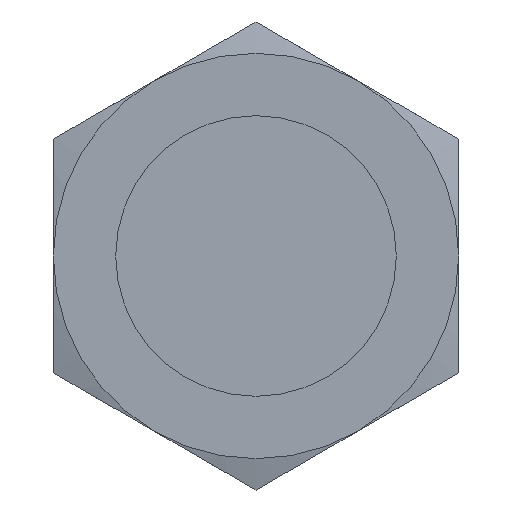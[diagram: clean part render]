
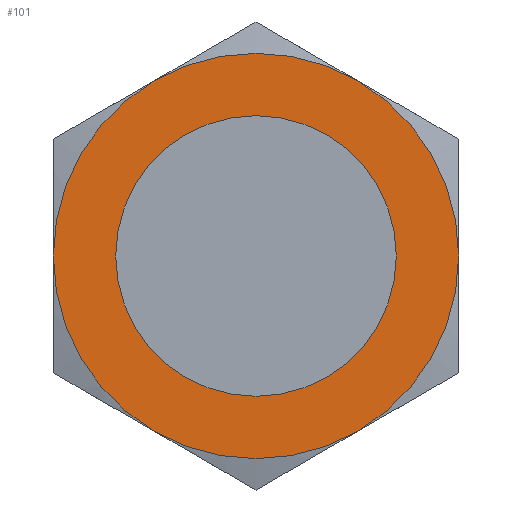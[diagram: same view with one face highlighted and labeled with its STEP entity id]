
A CAD part, front view. The second image highlights one B-rep face of the part: STEP entity #101.
In plain terms, the highlighted planar face has unit normal (0, -1, 0).
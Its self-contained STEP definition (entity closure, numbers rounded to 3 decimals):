
#101 = ADVANCED_FACE( '', ( #165, #166 ), #167, .T. );
#165 = FACE_OUTER_BOUND( '', #244, .T. );
#166 = FACE_BOUND( '', #245, .T. );
#167 = PLANE( '', #246 );
#244 = EDGE_LOOP( '', ( #453, #454, #455, #456, #457, #458 ) );
#245 = EDGE_LOOP( '', ( #459, #460 ) );
#246 = AXIS2_PLACEMENT_3D( '', #461, #462, #463 );
#453 = ORIENTED_EDGE( '', *, *, #590, .F. );
#454 = ORIENTED_EDGE( '', *, *, #591, .F. );
#455 = ORIENTED_EDGE( '', *, *, #592, .F. );
#456 = ORIENTED_EDGE( '', *, *, #593, .F. );
#457 = ORIENTED_EDGE( '', *, *, #594, .F. );
#458 = ORIENTED_EDGE( '', *, *, #595, .F. );
#459 = ORIENTED_EDGE( '', *, *, #559, .T. );
#460 = ORIENTED_EDGE( '', *, *, #600, .T. );
#461 = CARTESIAN_POINT( '', ( 8.039, 5.8, 0. ) );
#462 = DIRECTION( '', ( 0., -1., 0. ) );
#463 = DIRECTION( '', ( -1., 0., 0. ) );
#559 = EDGE_CURVE( '', #655, #659, #661, .T. );
#590 = EDGE_CURVE( '', #698, #690, #712, .T. );
#591 = EDGE_CURVE( '', #706, #698, #713, .T. );
#592 = EDGE_CURVE( '', #663, #706, #714, .T. );
#593 = EDGE_CURVE( '', #685, #663, #715, .T. );
#594 = EDGE_CURVE( '', #675, #685, #716, .T. );
#595 = EDGE_CURVE( '', #690, #675, #717, .T. );
#600 = EDGE_CURVE( '', #659, #655, #722, .T. );
#655 = VERTEX_POINT( '', #787 );
#659 = VERTEX_POINT( '', #792 );
#661 = CIRCLE( '', #795, 6.579 );
#663 = VERTEX_POINT( '', #797 );
#675 = VERTEX_POINT( '', #847 );
#685 = VERTEX_POINT( '', #895 );
#690 = VERTEX_POINT( '', #936 );
#698 = VERTEX_POINT( '', #981 );
#706 = VERTEX_POINT( '', #1026 );
#712 = CIRCLE( '', #1068, 9.5 );
#713 = CIRCLE( '', #1069, 9.5 );
#714 = CIRCLE( '', #1070, 9.5 );
#715 = CIRCLE( '', #1071, 9.5 );
#716 = CIRCLE( '', #1072, 9.5 );
#717 = CIRCLE( '', #1073, 9.5 );
#722 = CIRCLE( '', #1078, 6.579 );
#787 = CARTESIAN_POINT( '', ( 6.579, 5.8, 0. ) );
#792 = CARTESIAN_POINT( '', ( -6.579, 5.8, 0. ) );
#795 = AXIS2_PLACEMENT_3D( '', #1139, #1140, #1141 );
#797 = CARTESIAN_POINT( '', ( -4.75, 5.8, 8.227 ) );
#847 = CARTESIAN_POINT( '', ( -4.75, 5.8, -8.227 ) );
#895 = CARTESIAN_POINT( '', ( -9.5, 5.8, 0. ) );
#936 = CARTESIAN_POINT( '', ( 4.75, 5.8, -8.227 ) );
#981 = CARTESIAN_POINT( '', ( 9.5, 5.8, 0. ) );
#1026 = CARTESIAN_POINT( '', ( 4.75, 5.8, 8.227 ) );
#1068 = AXIS2_PLACEMENT_3D( '', #1148, #1149, #1150 );
#1069 = AXIS2_PLACEMENT_3D( '', #1151, #1152, #1153 );
#1070 = AXIS2_PLACEMENT_3D( '', #1154, #1155, #1156 );
#1071 = AXIS2_PLACEMENT_3D( '', #1157, #1158, #1159 );
#1072 = AXIS2_PLACEMENT_3D( '', #1160, #1161, #1162 );
#1073 = AXIS2_PLACEMENT_3D( '', #1163, #1164, #1165 );
#1078 = AXIS2_PLACEMENT_3D( '', #1178, #1179, #1180 );
#1139 = CARTESIAN_POINT( '', ( 0., 5.8, 0. ) );
#1140 = DIRECTION( '', ( 0., 1., 0. ) );
#1141 = DIRECTION( '', ( 1., 0., 0. ) );
#1148 = CARTESIAN_POINT( '', ( 0., 5.8, 0. ) );
#1149 = DIRECTION( '', ( 0., 1., 0. ) );
#1150 = DIRECTION( '', ( 1., 0., 0. ) );
#1151 = CARTESIAN_POINT( '', ( 0., 5.8, 0. ) );
#1152 = DIRECTION( '', ( 0., 1., 0. ) );
#1153 = DIRECTION( '', ( 1., 0., 0. ) );
#1154 = CARTESIAN_POINT( '', ( 0., 5.8, 0. ) );
#1155 = DIRECTION( '', ( 0., 1., 0. ) );
#1156 = DIRECTION( '', ( 1., 0., 0. ) );
#1157 = CARTESIAN_POINT( '', ( 0., 5.8, 0. ) );
#1158 = DIRECTION( '', ( 0., 1., 0. ) );
#1159 = DIRECTION( '', ( 1., 0., 0. ) );
#1160 = CARTESIAN_POINT( '', ( 0., 5.8, 0. ) );
#1161 = DIRECTION( '', ( 0., 1., 0. ) );
#1162 = DIRECTION( '', ( 1., 0., 0. ) );
#1163 = CARTESIAN_POINT( '', ( 0., 5.8, 0. ) );
#1164 = DIRECTION( '', ( 0., 1., 0. ) );
#1165 = DIRECTION( '', ( 1., 0., 0. ) );
#1178 = CARTESIAN_POINT( '', ( 0., 5.8, 0. ) );
#1179 = DIRECTION( '', ( 0., 1., 0. ) );
#1180 = DIRECTION( '', ( 1., 0., 0. ) );
